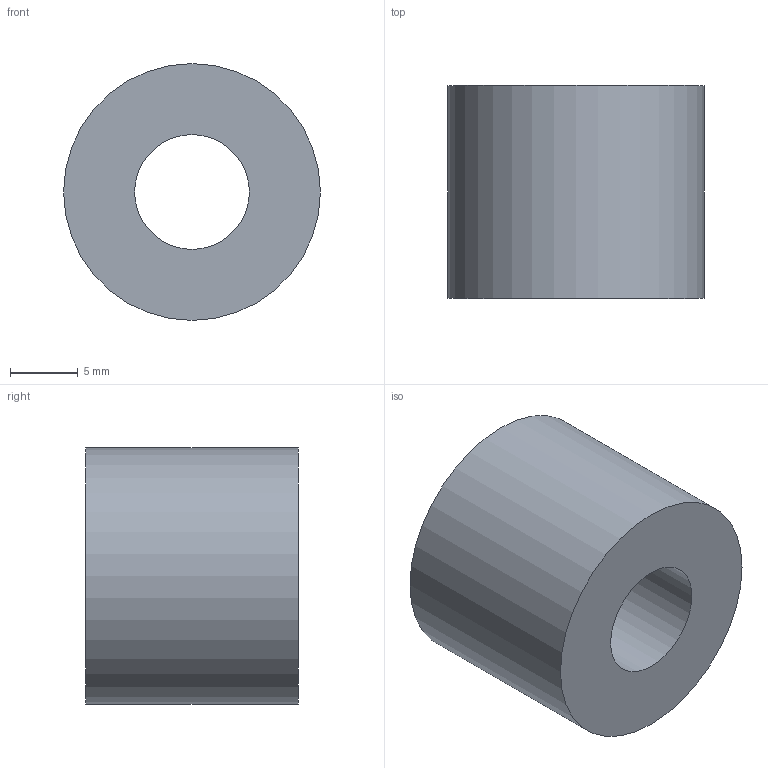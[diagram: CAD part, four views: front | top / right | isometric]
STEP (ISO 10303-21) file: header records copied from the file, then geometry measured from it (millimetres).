
FILE_DESCRIPTION(/* description */ (''),/* implementation_level */ '2;1');
FILE_NAME(/* name */ 'Distanzstck v1.step',/* time_stamp */ '2024-09-08T15:24:15+02:00',/* author */ (''),/* organization */ (''),/* preprocessor_version */ 'ST-DEVELOPER v20',/* originating_system */ 'Autodesk Translation Framework v13.14.0.145',/* authorisation */ '');
FILE_SCHEMA (('AUTOMOTIVE_DESIGN { 1 0 10303 214 3 1 1 }'));
Length unit declared in the file: millimetre
Products named in the file (1): Distanzstück
Bounding box: 19 x 15.75 x 19 mm (x, y, z)
Volume: 3571.8 mm3; surface area: 1814.3 mm2
Topology: 1 solids, 1 shells, 4 faces, 6 edges, 4 vertices
Faces by surface type: cylinder 2, plane 2
Full cylindrical faces by diameter (mm): 8.5 x1, 19 x1
Entity records: 131 total; most frequent: DIRECTION 20, CARTESIAN_POINT 15, ORIENTED_EDGE 12, AXIS2_PLACEMENT_3D 9, EDGE_LOOP 6, EDGE_CURVE 6, FACE_OUTER_BOUND 4, CIRCLE 4
